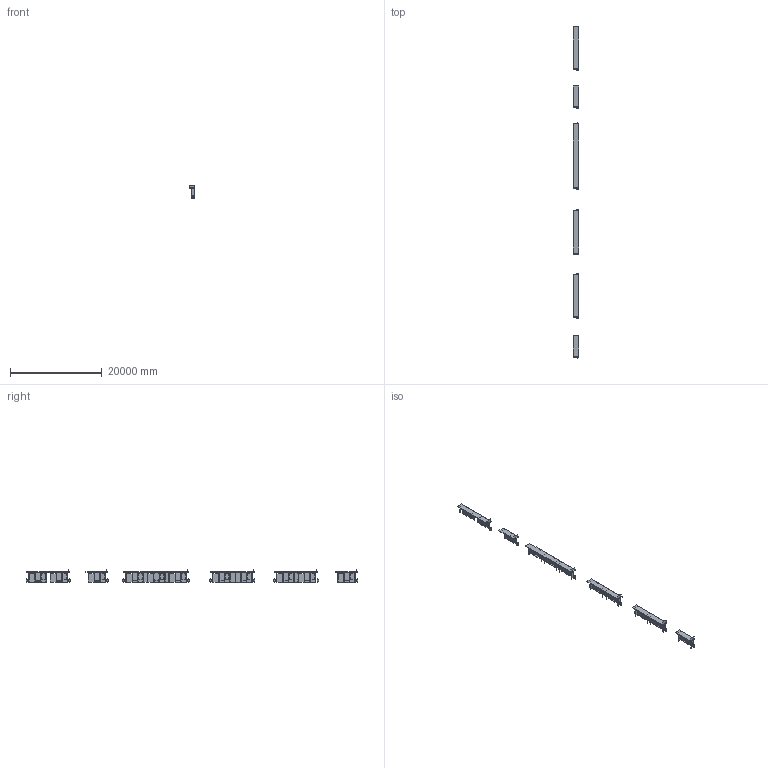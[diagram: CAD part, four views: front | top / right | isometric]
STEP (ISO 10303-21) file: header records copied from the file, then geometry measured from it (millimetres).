
FILE_DESCRIPTION(/* description */ (''),/* implementation_level */ '2;1');
FILE_NAME(/* name */ 'K1_P~6QI',/* time_stamp */ '2021-12-28T16:10:11+02:00',/* author */ (''),/* organization */ (''),/* preprocessor_version */ 'ST-DEVELOPER v16.5',/* originating_system */ '',/* authorisation */ '');
FILE_SCHEMA (('AUTOMOTIVE_DESIGN'));
Length unit declared in the file: millimetre
Products named in the file (1): Document
Bounding box: 1300 x 72174.82 x 2913 mm (x, y, z)
Volume: 14841600327.7 mm3; surface area: 432810973.1 mm2
Topology: 435 solids, 457 shells, 2758 faces, 5646 edges, 3780 vertices
Faces by surface type: plane 2702, bspline 56
Entity records: 66298 total; most frequent: CARTESIAN_POINT 18665, ORIENTED_EDGE 11204, EDGE_CURVE 5646, B_SPLINE_CURVE_WITH_KNOTS 5524, VERTEX_POINT 3780, EDGE_LOOP 2780, ADVANCED_FACE 2758, FACE_OUTER_BOUND 2758
